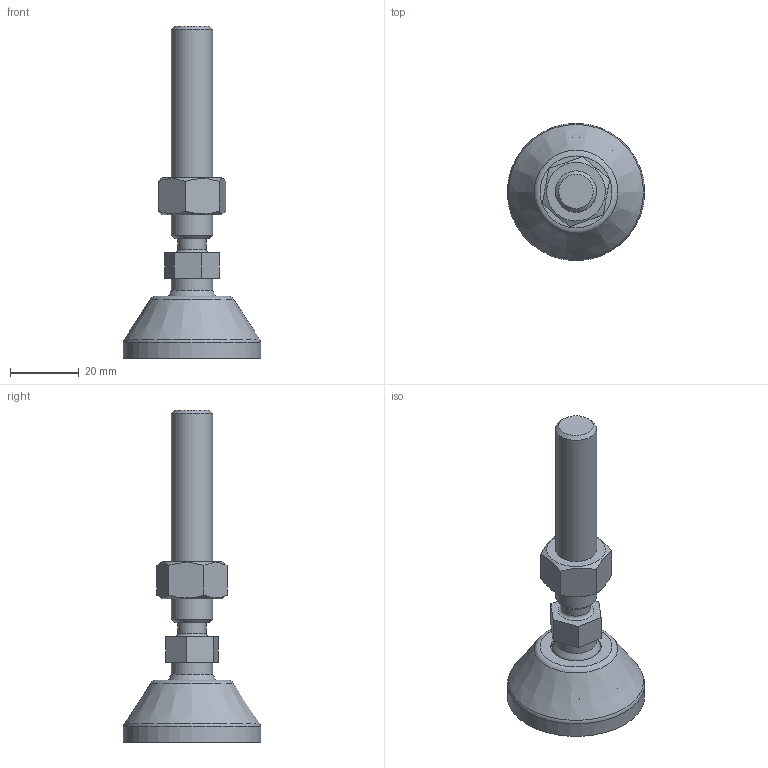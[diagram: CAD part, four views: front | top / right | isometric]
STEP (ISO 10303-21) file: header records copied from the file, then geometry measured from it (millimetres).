
FILE_DESCRIPTION(('STEP AP203'), '1');
FILE_NAME('栖闉罻', '', ('UNSPECIFIED'), ('UNSPECIFIED'), 'C3D Converter', 'C3D Toolkit', '');
FILE_SCHEMA(('CONFIG_CONTROL_DESIGN'));
Length unit declared in the file: millimetre
Products named in the file (4): A00015.1040; A00020.112066
Assembly tree (3 placements, depth 3):
  (unnamed)
    A00015.1040
    A00020.112066
      (unnamed)
Bounding box: 40 x 40 x 96.7 mm (x, y, z)
Volume: 22134.3 mm3; surface area: 11263.1 mm2
Topology: 3 solids, 3 shells, 137 faces, 381 edges, 255 vertices
Faces by surface type: plane 79, cylinder 26, torus 21, cone 9, sphere 2
Full cylindrical faces by diameter (mm): 8.3 x1, 10.647 x1, 12 x2, 14.3 x1, 15 x2, 15.5 x1, 32 x1, 40 x1
Entity records: 7713 total; most frequent: CARTESIAN_POINT 2985, DIRECTION 714, ORIENTED_EDGE 708, EDGE_CURVE 354, AXIS2_PLACEMENT_3D 281, VERTEX_POINT 254, EDGE_LOOP 170, LINE 152
